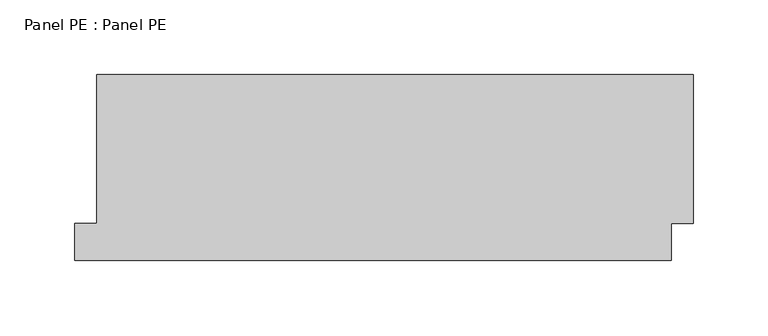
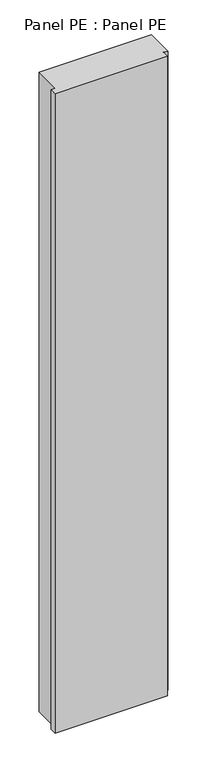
"""IFC4 building model written with IfcOpenShell, lengths in millimetres: plate geometry, Panel PE : Panel PE."""

from ifc_helpers import new_model, si_unit, origin, origin_with_axes, place, context, project, spatial, polyline, outline, extrude, source, transform, mapped, element, save


def panel_pe_panel_pe_14f966fb(model_context):
    return source(origin(), model_context, "Body", "SweptSolid", [
        extrude(outline(polyline([(200.0, 62.5), (200.0, -37.5), (185.0, -37.5), (185.0, -62.5), (-215.0, -62.5), (-215.0, -37.5), (-200.0, -37.5), (-200.0, 62.5), (200.0, 62.5)])), origin_with_axes(), (0.0, 0.0, 1.0), 2400.0),
    ])


if __name__ == "__main__":
    model = new_model("IFC4")
    model_context = context("Model", 3, world=origin())
    ifc_project = project(units=[si_unit("LENGTHUNIT", "METRE", prefix="MILLI")], contexts=[model_context])
    site = spatial("IfcSite", under=ifc_project)
    building = spatial("IfcBuilding", under=site)
    placement = place(None, origin())
    panel_pe_panel_pe_shape = panel_pe_panel_pe_14f966fb(model_context)
    element("IfcPlate", 1, ObjectType="Panel PE : Panel PE", at=placement, inside=building, context=model_context, shape_type="MappedRepresentation", body=[
        mapped(panel_pe_panel_pe_shape, transform((0.0, 0.0, 0.0), x_axis=(1.0, 0.0, 0.0), y_axis=(0.0, 1.0, 0.0), z_axis=(0.0, 0.0, 1.0))),
    ])
    save(model, "model.ifc")
